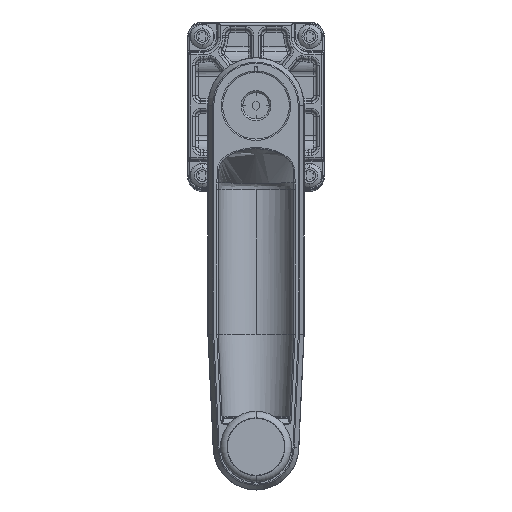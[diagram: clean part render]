
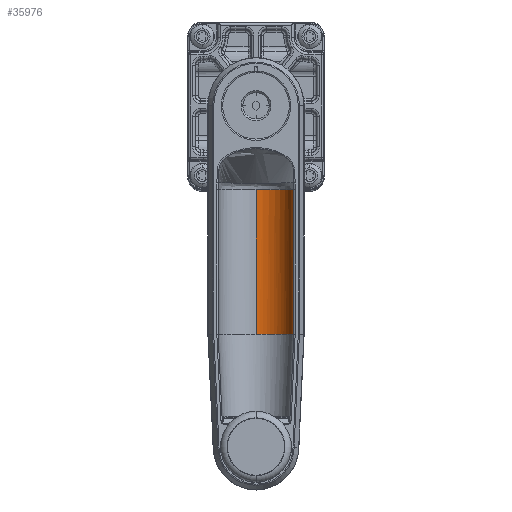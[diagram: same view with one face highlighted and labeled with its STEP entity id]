
A CAD part, top view. The second image highlights one B-rep face of the part: STEP entity #35976.
In plain terms, the highlighted cylindrical face has radius 14.25 mm (diameter 28.5 mm), a partial arc.
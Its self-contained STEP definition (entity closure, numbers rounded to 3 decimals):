
#4497 = CARTESIAN_POINT ( 'NONE',  ( 8.681, 48.118, -26.467 ) ) ;
#5016 = CARTESIAN_POINT ( 'NONE',  ( -5.569, 48.118, -40.717 ) ) ;
#6279 = CYLINDRICAL_SURFACE ( 'NONE', #32045, 14.25 ) ;
#6652 = CARTESIAN_POINT ( 'NONE',  ( 8.534, -6.882, -28.826 ) ) ;
#6662 = CARTESIAN_POINT ( 'NONE',  ( 8.145, -6.882, -30.342 ) ) ;
#7157 = CARTESIAN_POINT ( 'NONE',  ( -1.351, -6.882, -40.079 ) ) ;
#7470 = AXIS2_PLACEMENT_3D ( 'NONE', #40147, #104171, #49339 ) ;
#7930 = ORIENTED_EDGE ( 'NONE', *, *, #92397, .F. ) ;
#8100 = ORIENTED_EDGE ( 'NONE', *, *, #85722, .T. ) ;
#8125 = CARTESIAN_POINT ( 'NONE',  ( -2.279, -6.882, -40.365 ) ) ;
#8304 = VECTOR ( 'NONE', #40950, 1000. ) ;
#11483 = DIRECTION ( 'NONE',  ( 0., -1., 0. ) ) ;
#13189 = EDGE_CURVE ( 'NONE', #84600, #74269, #56880, .T. ) ;
#13515 = EDGE_CURVE ( 'NONE', #118126, #69774, #90442, .T. ) ;
#15902 = B_SPLINE_CURVE_WITH_KNOTS ( 'NONE', 3,
 ( #115955, #42765, #24791, #88772, #33996 ),
 .UNSPECIFIED., .F., .F.,
 ( 4, 1, 4 ),
 ( 0.155, 0.25, 0.345 ),
 .UNSPECIFIED. ) ;
#16337 = EDGE_CURVE ( 'NONE', #100851, #71621, #71362, .T. ) ;
#21786 = ORIENTED_EDGE ( 'NONE', *, *, #60415, .F. ) ;
#22775 = CARTESIAN_POINT ( 'NONE',  ( 8.681, 48.118, -26.467 ) ) ;
#23249 = ORIENTED_EDGE ( 'NONE', *, *, #86535, .F. ) ;
#24791 = CARTESIAN_POINT ( 'NONE',  ( 4.672, -6.882, -36.681 ) ) ;
#24838 = CARTESIAN_POINT ( 'NONE',  ( 7.953, -6.882, -30.992 ) ) ;
#28170 = ORIENTED_EDGE ( 'NONE', *, *, #16337, .F. ) ;
#28691 = CARTESIAN_POINT ( 'NONE',  ( -5.569, -6.882, -40.717 ) ) ;
#32045 = AXIS2_PLACEMENT_3D ( 'NONE', #93815, #11483, #47808 ) ;
#32798 = B_SPLINE_CURVE_WITH_KNOTS ( 'NONE', 3,
 ( #97826, #33830, #116176, #61365, #6652, #70551 ),
 .UNSPECIFIED., .F., .F.,
 ( 4, 2, 4 ),
 ( 0., 0., 0.079 ),
 .UNSPECIFIED. ) ;
#33830 = CARTESIAN_POINT ( 'NONE',  ( 8.691, -6.882, -26.467 ) ) ;
#33996 = CARTESIAN_POINT ( 'NONE',  ( 1.114, -6.882, -39.053 ) ) ;
#34044 = CARTESIAN_POINT ( 'NONE',  ( 8.092, -6.882, -30.526 ) ) ;
#34331 = CARTESIAN_POINT ( 'NONE',  ( -0.088, -6.882, -39.644 ) ) ;
#35690 = CARTESIAN_POINT ( 'NONE',  ( -1.351, -6.882, -40.079 ) ) ;
#35976 = ADVANCED_FACE ( 'NONE', ( #103557 ), #6279, .F. ) ;
#36477 = CARTESIAN_POINT ( 'NONE',  ( -4.657, -6.882, -40.695 ) ) ;
#37247 = CARTESIAN_POINT ( 'NONE',  ( -5.113, -6.882, -40.717 ) ) ;
#39873 = CARTESIAN_POINT ( 'NONE',  ( -4.203, -6.882, -40.652 ) ) ;
#40147 = CARTESIAN_POINT ( 'NONE',  ( -5.569, 48.118, -26.467 ) ) ;
#40950 = DIRECTION ( 'NONE',  ( 0., -1., 0. ) ) ;
#42765 = CARTESIAN_POINT ( 'NONE',  ( 6.367, -6.882, -34.377 ) ) ;
#43201 = CARTESIAN_POINT ( 'NONE',  ( 7.027, -6.882, -33.132 ) ) ;
#45683 = CARTESIAN_POINT ( 'NONE',  ( -5.569, 48.118, -40.717 ) ) ;
#47803 = CARTESIAN_POINT ( 'NONE',  ( 7.027, -6.882, -33.132 ) ) ;
#47808 = DIRECTION ( 'NONE',  ( 0., 0., -1. ) ) ;
#49339 = DIRECTION ( 'NONE',  ( 0., 0., 1. ) ) ;
#49402 = ORIENTED_EDGE ( 'NONE', *, *, #13189, .T. ) ;
#50615 = ORIENTED_EDGE ( 'NONE', *, *, #13515, .F. ) ;
#52693 = CARTESIAN_POINT ( 'NONE',  ( 0.718, -6.882, -39.263 ) ) ;
#53176 = VERTEX_POINT ( 'NONE', #39873 ) ;
#53657 = EDGE_CURVE ( 'NONE', #69774, #100851, #15902, .T. ) ;
#54054 = CARTESIAN_POINT ( 'NONE',  ( -3.237, -6.882, -40.557 ) ) ;
#54482 = CARTESIAN_POINT ( 'NONE',  ( 8.245, -6.882, -29.972 ) ) ;
#56235 = ORIENTED_EDGE ( 'NONE', *, *, #87067, .F. ) ;
#56880 = LINE ( 'NONE', #5016, #8304 ) ;
#60415 = EDGE_CURVE ( 'NONE', #90909, #101965, #32798, .T. ) ;
#61365 = CARTESIAN_POINT ( 'NONE',  ( 8.685, -6.882, -27.645 ) ) ;
#61641 = B_SPLINE_CURVE_WITH_KNOTS ( 'NONE', 3,
 ( #35690, #8125, #54054, #118060 ),
 .UNSPECIFIED., .F., .F.,
 ( 4, 4 ),
 ( 0.405, 0.47 ),
 .UNSPECIFIED. ) ;
#61876 = CARTESIAN_POINT ( 'NONE',  ( -0.928, -6.882, -39.947 ) ) ;
#64642 = CARTESIAN_POINT ( 'NONE',  ( 1.114, -6.882, -39.053 ) ) ;
#66757 = B_SPLINE_CURVE_WITH_KNOTS ( 'NONE', 3,
 ( #107040, #116190, #6662, #70569 ),
 .UNSPECIFIED., .F., .F.,
 ( 4, 4 ),
 ( 0.079, 0.092 ),
 .UNSPECIFIED. ) ;
#69774 = VERTEX_POINT ( 'NONE', #47803 ) ;
#70454 = VERTEX_POINT ( 'NONE', #4497 ) ;
#70551 = CARTESIAN_POINT ( 'NONE',  ( 8.245, -6.882, -29.972 ) ) ;
#70569 = CARTESIAN_POINT ( 'NONE',  ( 8.092, -6.882, -30.526 ) ) ;
#71362 = B_SPLINE_CURVE_WITH_KNOTS ( 'NONE', 3,
 ( #116701, #52693, #34331, #61876, #7157 ),
 .UNSPECIFIED., .F., .F.,
 ( 4, 1, 4 ),
 ( 0.345, 0.375, 0.405 ),
 .UNSPECIFIED. ) ;
#71621 = VERTEX_POINT ( 'NONE', #107400 ) ;
#73634 = CARTESIAN_POINT ( 'NONE',  ( -4.203, -6.882, -40.652 ) ) ;
#74269 = VERTEX_POINT ( 'NONE', #28691 ) ;
#80545 = CARTESIAN_POINT ( 'NONE',  ( 8.092, -6.882, -30.526 ) ) ;
#81920 = EDGE_LOOP ( 'NONE', ( #8100, #49402, #109015, #56235, #28170, #81941, #50615, #23249, #21786, #7930 ) ) ;
#81941 = ORIENTED_EDGE ( 'NONE', *, *, #53657, .F. ) ;
#84600 = VERTEX_POINT ( 'NONE', #45683 ) ;
#85722 = EDGE_CURVE ( 'NONE', #70454, #84600, #111398, .T. ) ;
#86535 = EDGE_CURVE ( 'NONE', #101965, #118126, #66757, .T. ) ;
#87067 = EDGE_CURVE ( 'NONE', #71621, #53176, #61641, .T. ) ;
#87129 = EDGE_CURVE ( 'NONE', #53176, #74269, #116656, .T. ) ;
#88772 = CARTESIAN_POINT ( 'NONE',  ( 2.369, -6.882, -38.385 ) ) ;
#88821 = CARTESIAN_POINT ( 'NONE',  ( 7.639, -6.882, -31.879 ) ) ;
#90442 = B_SPLINE_CURVE_WITH_KNOTS ( 'NONE', 3,
 ( #34044, #24838, #88821, #98045, #43201 ),
 .UNSPECIFIED., .F., .F.,
 ( 4, 1, 4 ),
 ( 0.092, 0.125, 0.155 ),
 .UNSPECIFIED. ) ;
#90909 = VERTEX_POINT ( 'NONE', #102018 ) ;
#92397 = EDGE_CURVE ( 'NONE', #70454, #90909, #101773, .T. ) ;
#93815 = CARTESIAN_POINT ( 'NONE',  ( -5.569, 48.118, -26.467 ) ) ;
#96018 = VECTOR ( 'NONE', #105131, 1000. ) ;
#97826 = CARTESIAN_POINT ( 'NONE',  ( 8.691, -6.882, -26.467 ) ) ;
#98045 = CARTESIAN_POINT ( 'NONE',  ( 7.239, -6.882, -32.731 ) ) ;
#100851 = VERTEX_POINT ( 'NONE', #64642 ) ;
#101246 = CARTESIAN_POINT ( 'NONE',  ( -5.569, -6.882, -40.717 ) ) ;
#101773 = LINE ( 'NONE', #22775, #96018 ) ;
#101965 = VERTEX_POINT ( 'NONE', #54482 ) ;
#102018 = CARTESIAN_POINT ( 'NONE',  ( 8.691, -6.882, -26.467 ) ) ;
#103557 = FACE_OUTER_BOUND ( 'NONE', #81920, .T. ) ;
#104171 = DIRECTION ( 'NONE',  ( 0., 1., 0. ) ) ;
#105131 = DIRECTION ( 'NONE',  ( 0., -1., 0. ) ) ;
#107040 = CARTESIAN_POINT ( 'NONE',  ( 8.245, -6.882, -29.972 ) ) ;
#107400 = CARTESIAN_POINT ( 'NONE',  ( -1.351, -6.882, -40.079 ) ) ;
#109015 = ORIENTED_EDGE ( 'NONE', *, *, #87129, .F. ) ;
#111398 = CIRCLE ( 'NONE', #7470, 14.25 ) ;
#115955 = CARTESIAN_POINT ( 'NONE',  ( 7.027, -6.882, -33.132 ) ) ;
#116176 = CARTESIAN_POINT ( 'NONE',  ( 8.691, -6.882, -26.467 ) ) ;
#116190 = CARTESIAN_POINT ( 'NONE',  ( 8.196, -6.882, -30.157 ) ) ;
#116656 = B_SPLINE_CURVE_WITH_KNOTS ( 'NONE', 3,
 ( #73634, #36477, #37247, #101246 ),
 .UNSPECIFIED., .F., .F.,
 ( 4, 4 ),
 ( 0.47, 0.5 ),
 .UNSPECIFIED. ) ;
#116701 = CARTESIAN_POINT ( 'NONE',  ( 1.114, -6.882, -39.053 ) ) ;
#118060 = CARTESIAN_POINT ( 'NONE',  ( -4.203, -6.882, -40.652 ) ) ;
#118126 = VERTEX_POINT ( 'NONE', #80545 ) ;
